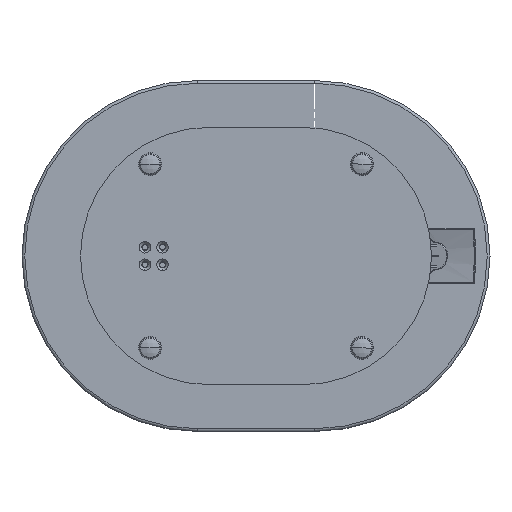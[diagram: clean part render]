
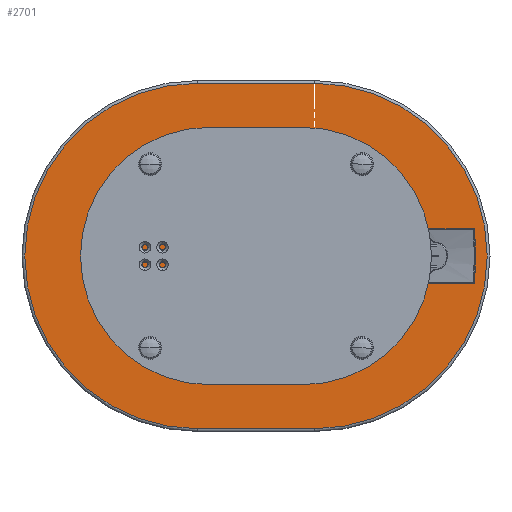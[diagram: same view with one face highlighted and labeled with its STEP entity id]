
A CAD part, front view. The second image highlights one B-rep face of the part: STEP entity #2701.
In plain terms, the highlighted planar face has unit normal (0, -1, 0).
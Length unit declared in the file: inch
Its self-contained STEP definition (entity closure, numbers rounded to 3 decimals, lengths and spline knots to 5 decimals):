
#280 = DIRECTION ( 'NONE',  ( 0., 1., 0. ) ) ;
#283 = AXIS2_PLACEMENT_3D ( 'NONE', #9759, #3894, #8837 ) ;
#448 = CARTESIAN_POINT ( 'NONE',  ( 2.5, 0., 7.38189 ) ) ;
#483 = CIRCLE ( 'NONE', #10632, 7.38189 ) ;
#1306 = AXIS2_PLACEMENT_3D ( 'NONE', #2220, #2271, #12338 ) ;
#1824 = EDGE_LOOP ( 'NONE', ( #4520, #8328, #8339, #10174 ) ) ;
#1909 = FACE_OUTER_BOUND ( 'NONE', #1824, .T. ) ;
#2220 = CARTESIAN_POINT ( 'NONE',  ( -2.5, 0., 0. ) ) ;
#2271 = DIRECTION ( 'NONE',  ( 0., 1., 0. ) ) ;
#2401 = CARTESIAN_POINT ( 'NONE',  ( -2.5, 0., -7.38189 ) ) ;
#2609 = EDGE_CURVE ( 'NONE', #12013, #3047, #483, .T. ) ;
#2701 = ADVANCED_FACE ( 'NONE', ( #1909 ), #6796, .F. ) ;
#2789 = EDGE_CURVE ( 'NONE', #6270, #5898, #6850, .T. ) ;
#3047 = VERTEX_POINT ( 'NONE', #6429 ) ;
#3398 = EDGE_CURVE ( 'NONE', #3047, #6270, #11616, .T. ) ;
#3894 = DIRECTION ( 'NONE',  ( 0., 1., 0. ) ) ;
#4182 = DIRECTION ( 'NONE',  ( 0., 0., 1. ) ) ;
#4280 = CARTESIAN_POINT ( 'NONE',  ( -2.5, 0., 7.38189 ) ) ;
#4520 = ORIENTED_EDGE ( 'NONE', *, *, #2789, .F. ) ;
#5142 = CARTESIAN_POINT ( 'NONE',  ( 2.5, 0., 0. ) ) ;
#5898 = VERTEX_POINT ( 'NONE', #4280 ) ;
#6151 = LINE ( 'NONE', #8238, #6303 ) ;
#6270 = VERTEX_POINT ( 'NONE', #2401 ) ;
#6303 = VECTOR ( 'NONE', #10153, 39.37008 ) ;
#6429 = CARTESIAN_POINT ( 'NONE',  ( 2.5, 0., -7.38189 ) ) ;
#6796 = PLANE ( 'NONE',  #283 ) ;
#6850 = CIRCLE ( 'NONE', #1306, 7.38189 ) ;
#8238 = CARTESIAN_POINT ( 'NONE',  ( -2.5, 0., 7.38189 ) ) ;
#8328 = ORIENTED_EDGE ( 'NONE', *, *, #3398, .F. ) ;
#8337 = CARTESIAN_POINT ( 'NONE',  ( 2.5, 0., -7.38189 ) ) ;
#8339 = ORIENTED_EDGE ( 'NONE', *, *, #2609, .F. ) ;
#8837 = DIRECTION ( 'NONE',  ( 0., 0., 1. ) ) ;
#9680 = VECTOR ( 'NONE', #10392, 39.37008 ) ;
#9759 = CARTESIAN_POINT ( 'NONE',  ( -2.5, 0., 0. ) ) ;
#10153 = DIRECTION ( 'NONE',  ( 1., 0., 0. ) ) ;
#10174 = ORIENTED_EDGE ( 'NONE', *, *, #12513, .F. ) ;
#10392 = DIRECTION ( 'NONE',  ( -1., 0., 0. ) ) ;
#10632 = AXIS2_PLACEMENT_3D ( 'NONE', #5142, #280, #4182 ) ;
#11616 = LINE ( 'NONE', #8337, #9680 ) ;
#12013 = VERTEX_POINT ( 'NONE', #448 ) ;
#12338 = DIRECTION ( 'NONE',  ( 0., 0., 1. ) ) ;
#12513 = EDGE_CURVE ( 'NONE', #5898, #12013, #6151, .T. ) ;
